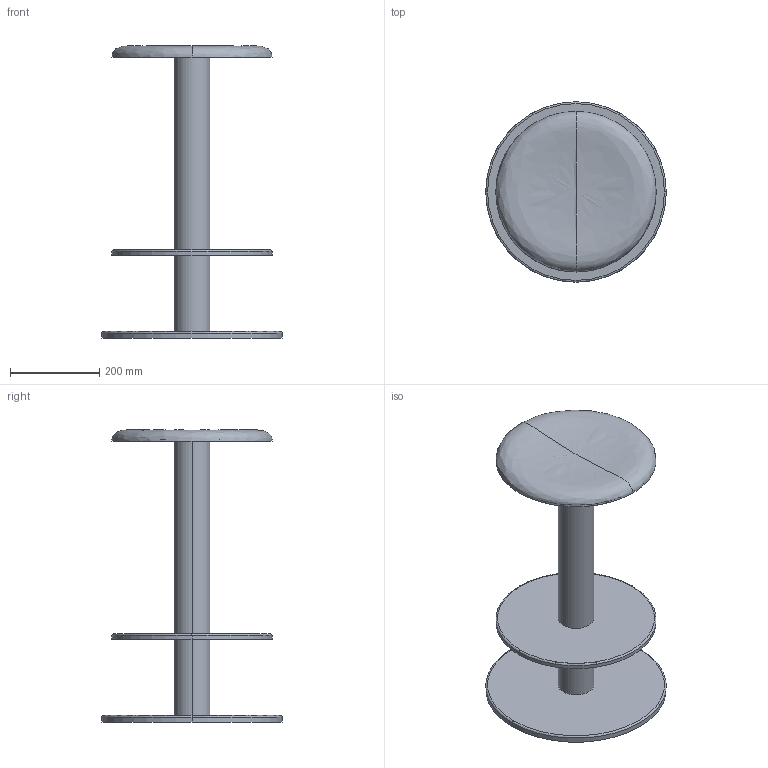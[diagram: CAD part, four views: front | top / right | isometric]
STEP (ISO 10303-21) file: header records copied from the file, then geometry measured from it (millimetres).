
FILE_DESCRIPTION (( 'STEP AP214' ), '1' );
FILE_NAME ('Coupe H65.STEP', '2026-06-18T13:01:43', ( '' ), ( '' ), 'SwSTEP 2.0', 'SolidWorks 2025', '' );
FILE_SCHEMA (( 'AUTOMOTIVE_DESIGN' ));
Length unit declared in the file: millimetre
Products named in the file (1): Coupe H65
Bounding box: 405 x 405 x 655.97 mm (x, y, z)
Volume: 3308209.7 mm3; surface area: 1276233.3 mm2
Topology: 1 solids, 3 shells, 46 faces, 90 edges, 55 vertices
Faces by surface type: cylinder 20, bspline 14, plane 12
Entity records: 1507 total; most frequent: CARTESIAN_POINT 598, DIRECTION 190, ORIENTED_EDGE 176, AXIS2_PLACEMENT_3D 95, EDGE_CURVE 88, CIRCLE 62, VERTEX_POINT 55, EDGE_LOOP 55
